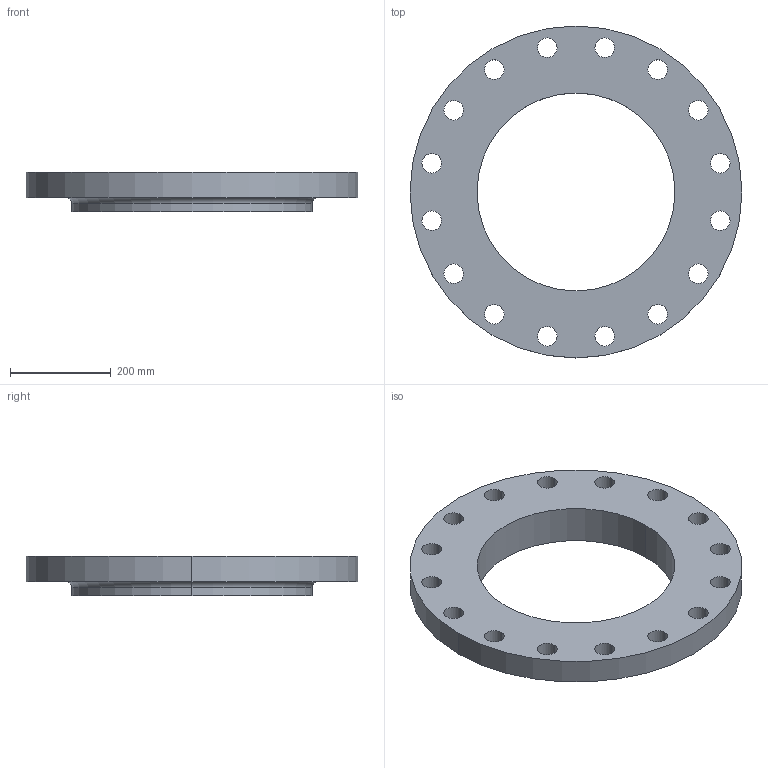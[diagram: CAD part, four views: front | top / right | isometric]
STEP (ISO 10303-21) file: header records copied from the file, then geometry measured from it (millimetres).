
FILE_DESCRIPTION (( 'STEP AP214' ), '1' );
FILE_NAME ('PN40 DN400 Type 13 - Type A Face.STEP', '2019-01-05T23:16:25', ( '' ), ( '' ), 'SwSTEP 2.0', 'SolidWorks 2019', '' );
FILE_SCHEMA (( 'AUTOMOTIVE_DESIGN' ));
Length unit declared in the file: millimetre
Products named in the file (1): PN40 DN400 Type 13 - Type A Face
Bounding box: 660 x 660 x 78 mm (x, y, z)
Volume: 11735810.6 mm3; surface area: 735273.3 mm2
Topology: 1 solids, 1 shells, 43 faces, 118 edges, 78 vertices
Faces by surface type: cylinder 38, plane 3, torus 2
Entity records: 1518 total; most frequent: DIRECTION 286, CARTESIAN_POINT 240, ORIENTED_EDGE 236, AXIS2_PLACEMENT_3D 124, EDGE_CURVE 118, CIRCLE 80, VERTEX_POINT 78, EDGE_LOOP 78
